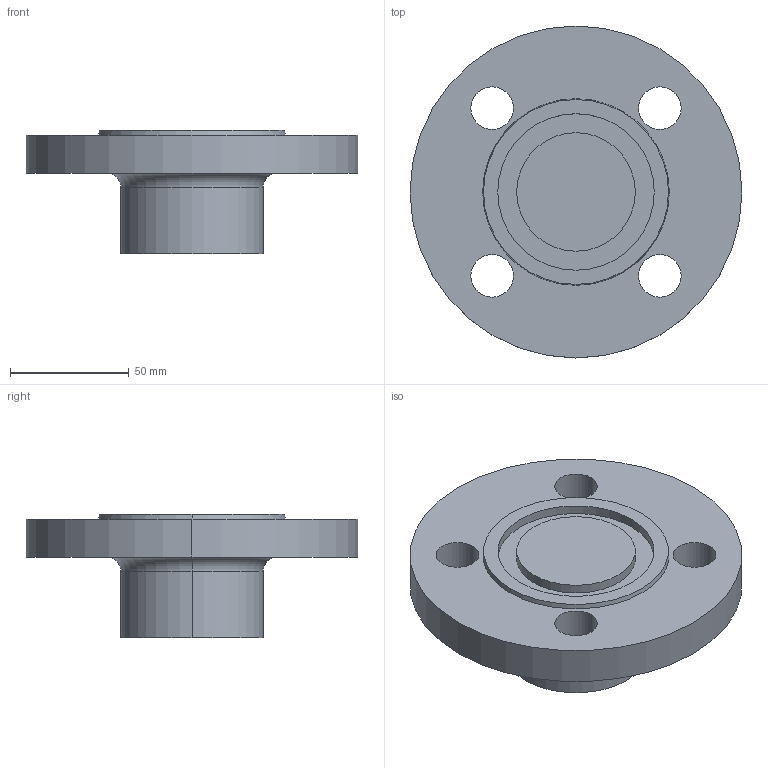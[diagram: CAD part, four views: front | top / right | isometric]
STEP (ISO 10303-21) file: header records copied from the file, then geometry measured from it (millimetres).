
FILE_DESCRIPTION (( 'STEP AP214' ), '1' );
FILE_NAME ('PN40 DN32 Type 21(i) - Type D Face.STEP', '2018-12-29T23:48:14', ( '' ), ( '' ), 'SwSTEP 2.0', 'SolidWorks 2019', '' );
FILE_SCHEMA (( 'AUTOMOTIVE_DESIGN' ));
Length unit declared in the file: millimetre
Products named in the file (1): PN40 DN32 Type 21(i) - Type D Face
Bounding box: 140 x 140 x 52 mm (x, y, z)
Volume: 331481.5 mm3; surface area: 47218.4 mm2
Topology: 1 solids, 1 shells, 26 faces, 58 edges, 38 vertices
Faces by surface type: cylinder 16, plane 6, torus 2, cone 2
Entity records: 796 total; most frequent: DIRECTION 152, CARTESIAN_POINT 123, ORIENTED_EDGE 116, AXIS2_PLACEMENT_3D 67, EDGE_CURVE 58, CIRCLE 40, VERTEX_POINT 38, EDGE_LOOP 38
